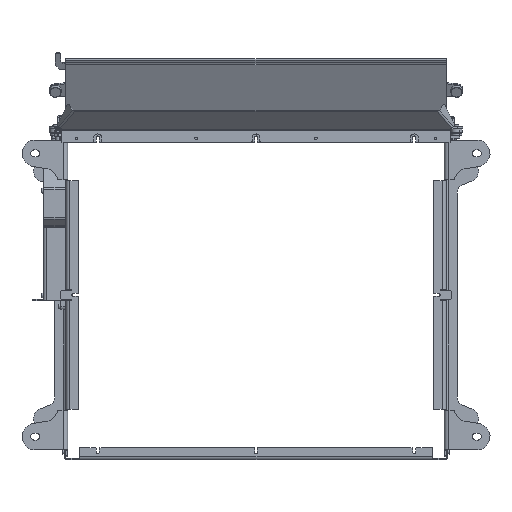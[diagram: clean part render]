
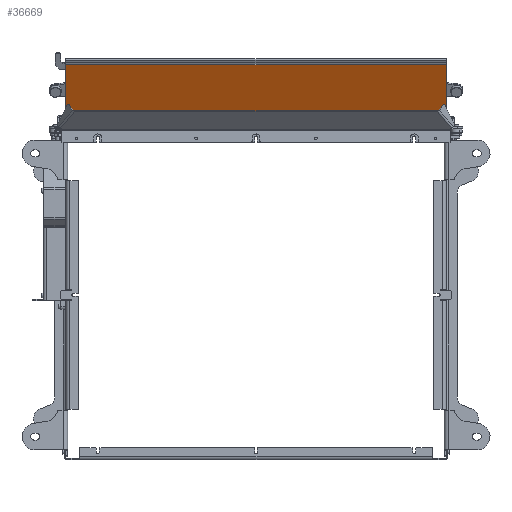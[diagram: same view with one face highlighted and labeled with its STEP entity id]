
A CAD part, front view. The second image highlights one B-rep face of the part: STEP entity #36669.
In plain terms, the highlighted planar face has unit normal (0, -0.882, -0.471).
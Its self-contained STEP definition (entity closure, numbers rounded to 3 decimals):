
#1402 = CARTESIAN_POINT ( 'NONE',  ( 0., 92.765, 52.791 ) ) ;
#1588 = DIRECTION ( 'NONE',  ( -1., 0., 0. ) ) ;
#2196 = VECTOR ( 'NONE', #45517, 1000. ) ;
#4262 = LINE ( 'NONE', #8022, #11344 ) ;
#5370 = ORIENTED_EDGE ( 'NONE', *, *, #19579, .T. ) ;
#6244 = EDGE_CURVE ( 'NONE', #23826, #52073, #4262, .T. ) ;
#8022 = CARTESIAN_POINT ( 'NONE',  ( 216.5, 71.941, 91.835 ) ) ;
#8280 = CARTESIAN_POINT ( 'NONE',  ( 216.5, 74.765, 86.541 ) ) ;
#8475 = CARTESIAN_POINT ( 'NONE',  ( -216.5, 113.588, 13.747 ) ) ;
#9042 = ORIENTED_EDGE ( 'NONE', *, *, #40262, .T. ) ;
#10466 = LINE ( 'NONE', #55935, #18902 ) ;
#11344 = VECTOR ( 'NONE', #14303, 1000. ) ;
#14303 = DIRECTION ( 'NONE',  ( 0., -0.471, 0.882 ) ) ;
#15291 = CARTESIAN_POINT ( 'NONE',  ( 216.5, 74.765, 86.541 ) ) ;
#15370 = PLANE ( 'NONE',  #23681 ) ;
#16340 = DIRECTION ( 'NONE',  ( -1., 0., 0. ) ) ;
#16973 = ORIENTED_EDGE ( 'NONE', *, *, #6244, .T. ) ;
#17834 = VERTEX_POINT ( 'NONE', #8475 ) ;
#18902 = VECTOR ( 'NONE', #51253, 1000. ) ;
#19579 = EDGE_CURVE ( 'NONE', #52073, #33661, #56365, .T. ) ;
#19787 = LINE ( 'NONE', #50772, #2196 ) ;
#20427 = EDGE_LOOP ( 'NONE', ( #5370, #9042, #32806, #16973 ) ) ;
#20601 = VECTOR ( 'NONE', #16340, 1000. ) ;
#23681 = AXIS2_PLACEMENT_3D ( 'NONE', #1402, #55921, #1588 ) ;
#23826 = VERTEX_POINT ( 'NONE', #39315 ) ;
#32806 = ORIENTED_EDGE ( 'NONE', *, *, #54108, .T. ) ;
#33661 = VERTEX_POINT ( 'NONE', #51927 ) ;
#36669 = ADVANCED_FACE ( 'NONE', ( #50047 ), #15370, .T. ) ;
#39315 = CARTESIAN_POINT ( 'NONE',  ( 216.5, 113.588, 13.747 ) ) ;
#40262 = EDGE_CURVE ( 'NONE', #33661, #17834, #10466, .T. ) ;
#45517 = DIRECTION ( 'NONE',  ( 1., 0., 0. ) ) ;
#50047 = FACE_OUTER_BOUND ( 'NONE', #20427, .T. ) ;
#50772 = CARTESIAN_POINT ( 'NONE',  ( -216.5, 113.588, 13.747 ) ) ;
#51253 = DIRECTION ( 'NONE',  ( 0., 0.471, -0.882 ) ) ;
#51927 = CARTESIAN_POINT ( 'NONE',  ( -216.5, 74.765, 86.541 ) ) ;
#52073 = VERTEX_POINT ( 'NONE', #15291 ) ;
#54108 = EDGE_CURVE ( 'NONE', #17834, #23826, #19787, .T. ) ;
#55921 = DIRECTION ( 'NONE',  ( 0., -0.882, -0.471 ) ) ;
#55935 = CARTESIAN_POINT ( 'NONE',  ( -216.5, 71.941, 91.835 ) ) ;
#56365 = LINE ( 'NONE', #8280, #20601 ) ;
